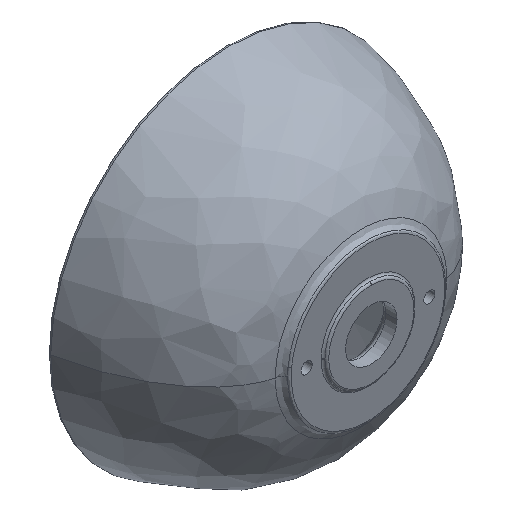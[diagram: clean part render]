
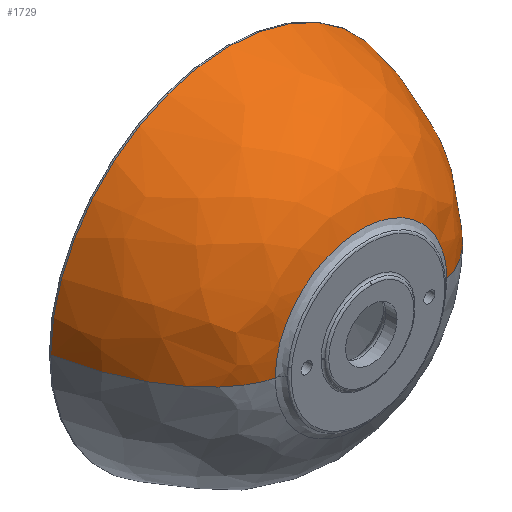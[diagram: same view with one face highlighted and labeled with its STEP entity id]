
A CAD part, isometric view. The second image highlights one B-rep face of the part: STEP entity #1729.
In plain terms, the highlighted free-form (B-spline) face has degree [3, 3] with [4, 4] control points.
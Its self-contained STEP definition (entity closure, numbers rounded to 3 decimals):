
#6 = CARTESIAN_POINT ( 'NONE',  ( -147.729, 61.153, 0. ) ) ;
#31 = ORIENTED_EDGE ( 'NONE', *, *, #299, .T. ) ;
#125 = B_SPLINE_CURVE_WITH_KNOTS ( 'NONE', 3,
 ( #1674, #369, #2110, #1040 ),
 .UNSPECIFIED., .F., .F.,
 ( 4, 4 ),
 ( 0.012, 0.946 ),
 .UNSPECIFIED. ) ;
#136 = VERTEX_POINT ( 'NONE', #1911 ) ;
#211 = CARTESIAN_POINT ( 'NONE',  ( -159.571, 124.633, 0. ) ) ;
#227 = CARTESIAN_POINT ( 'NONE',  ( 112.884, 14.951, 0. ) ) ;
#299 = EDGE_CURVE ( 'NONE', #2156, #633, #2067, .T. ) ;
#316 =( BOUNDED_SURFACE ( )  B_SPLINE_SURFACE ( 3, 3, ( 
 ( #2337, #2873, #1977, #211 ),
 ( #1492, #883, #1308, #6 ),
 ( #227, #2857, #1078, #1773 ),
 ( #2399, #399, #1109, #2658 ) ),
 .UNSPECIFIED., .F., .F., .T. ) 
 B_SPLINE_SURFACE_WITH_KNOTS ( ( 4, 4 ),
 ( 4, 4 ),
 ( 0.012, 0.946 ),
 ( 0., 1. ),
 .UNSPECIFIED. ) 
 GEOMETRIC_REPRESENTATION_ITEM ( )  RATIONAL_B_SPLINE_SURFACE ( (
 ( 1., 0.333, 0.333, 1.),
 ( 1., 0.333, 0.333, 1.),
 ( 1., 0.333, 0.333, 1.),
 ( 1., 0.333, 0.333, 1.) ) ) 
 REPRESENTATION_ITEM ( '' )  SURFACE ( )  );
#369 = CARTESIAN_POINT ( 'NONE',  ( 147.729, 61.153, 0. ) ) ;
#399 = CARTESIAN_POINT ( 'NONE',  ( 76.831, 6.242, 153.662 ) ) ;
#429 = CARTESIAN_POINT ( 'NONE',  ( -76.831, 6.242, 0. ) ) ;
#473 = EDGE_LOOP ( 'NONE', ( #2033, #31, #2623, #1828 ) ) ;
#513 = CARTESIAN_POINT ( 'NONE',  ( -159.571, 124.633, 0. ) ) ;
#592 = CARTESIAN_POINT ( 'NONE',  ( -76.831, 6.242, 0. ) ) ;
#633 = VERTEX_POINT ( 'NONE', #513 ) ;
#782 = CARTESIAN_POINT ( 'NONE',  ( -76.831, 6.242, 153.662 ) ) ;
#883 = CARTESIAN_POINT ( 'NONE',  ( 147.729, 61.153, 295.458 ) ) ;
#927 = CARTESIAN_POINT ( 'NONE',  ( 159.571, 124.633, 0. ) ) ;
#1040 = CARTESIAN_POINT ( 'NONE',  ( 76.831, 6.242, 0. ) ) ;
#1069 = DIRECTION ( 'NONE',  ( 0., -1., 0. ) ) ;
#1078 = CARTESIAN_POINT ( 'NONE',  ( -112.884, 14.951, 225.767 ) ) ;
#1100 = B_SPLINE_CURVE_WITH_KNOTS ( 'NONE', 3,
 ( #1903, #1974, #2870, #429 ),
 .UNSPECIFIED., .F., .F.,
 ( 4, 4 ),
 ( 0.012, 0.946 ),
 .UNSPECIFIED. ) ;
#1109 = CARTESIAN_POINT ( 'NONE',  ( -76.831, 6.242, 153.662 ) ) ;
#1308 = CARTESIAN_POINT ( 'NONE',  ( -147.729, 61.153, 295.458 ) ) ;
#1427 = CARTESIAN_POINT ( 'NONE',  ( 76.831, 6.242, 153.662 ) ) ;
#1492 = CARTESIAN_POINT ( 'NONE',  ( 147.729, 61.153, 0. ) ) ;
#1496 = EDGE_CURVE ( 'NONE', #136, #1740, #2082, .T. ) ;
#1501 = EDGE_CURVE ( 'NONE', #2156, #1740, #125, .T. ) ;
#1674 = CARTESIAN_POINT ( 'NONE',  ( 159.571, 124.633, 0. ) ) ;
#1729 = ADVANCED_FACE ( 'NONE', ( #2096 ), #316, .F. ) ;
#1740 = VERTEX_POINT ( 'NONE', #1757 ) ;
#1757 = CARTESIAN_POINT ( 'NONE',  ( 76.831, 6.242, 0. ) ) ;
#1773 = CARTESIAN_POINT ( 'NONE',  ( -112.884, 14.951, 0. ) ) ;
#1828 = ORIENTED_EDGE ( 'NONE', *, *, #1496, .T. ) ;
#1900 = CARTESIAN_POINT ( 'NONE',  ( 76.831, 6.242, 0. ) ) ;
#1903 = CARTESIAN_POINT ( 'NONE',  ( -159.571, 124.633, 0. ) ) ;
#1911 = CARTESIAN_POINT ( 'NONE',  ( -76.831, 6.242, 0. ) ) ;
#1946 = EDGE_CURVE ( 'NONE', #633, #136, #1100, .T. ) ;
#1974 = CARTESIAN_POINT ( 'NONE',  ( -147.729, 61.153, 0. ) ) ;
#1977 = CARTESIAN_POINT ( 'NONE',  ( -159.571, 124.633, 319.141 ) ) ;
#2033 = ORIENTED_EDGE ( 'NONE', *, *, #1501, .F. ) ;
#2067 = CIRCLE ( 'NONE', #2863, 159.571 ) ;
#2082 =( BOUNDED_CURVE ( )  B_SPLINE_CURVE ( 3, ( #592, #782, #1427, #1900 ),
 .UNSPECIFIED., .F., .T. ) 
 B_SPLINE_CURVE_WITH_KNOTS ( ( 4, 4 ),
 ( 0.5, 1. ),
 .UNSPECIFIED. ) 
 CURVE ( )  GEOMETRIC_REPRESENTATION_ITEM ( )  RATIONAL_B_SPLINE_CURVE ( ( 1., 0.333, 0.333, 1. ) ) 
 REPRESENTATION_ITEM ( '' )  );
#2096 = FACE_OUTER_BOUND ( 'NONE', #473, .T. ) ;
#2110 = CARTESIAN_POINT ( 'NONE',  ( 112.884, 14.951, 0. ) ) ;
#2156 = VERTEX_POINT ( 'NONE', #927 ) ;
#2337 = CARTESIAN_POINT ( 'NONE',  ( 159.571, 124.633, 0. ) ) ;
#2357 = CARTESIAN_POINT ( 'NONE',  ( 0., 124.633, 0. ) ) ;
#2399 = CARTESIAN_POINT ( 'NONE',  ( 76.831, 6.242, 0. ) ) ;
#2617 = DIRECTION ( 'NONE',  ( 1., 0., 0. ) ) ;
#2623 = ORIENTED_EDGE ( 'NONE', *, *, #1946, .T. ) ;
#2658 = CARTESIAN_POINT ( 'NONE',  ( -76.831, 6.242, 0. ) ) ;
#2857 = CARTESIAN_POINT ( 'NONE',  ( 112.884, 14.951, 225.767 ) ) ;
#2863 = AXIS2_PLACEMENT_3D ( 'NONE', #2357, #1069, #2617 ) ;
#2870 = CARTESIAN_POINT ( 'NONE',  ( -112.884, 14.951, 0. ) ) ;
#2873 = CARTESIAN_POINT ( 'NONE',  ( 159.571, 124.633, 319.141 ) ) ;
